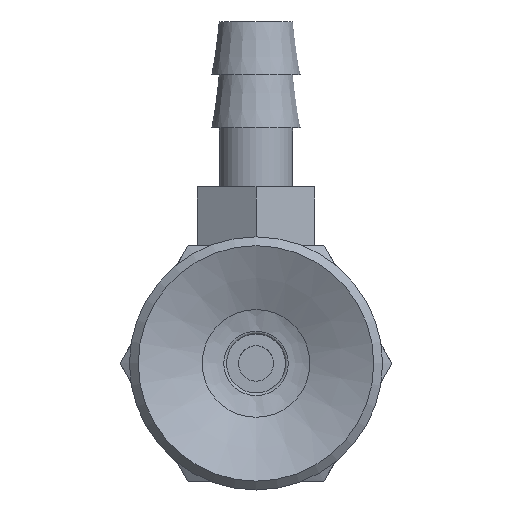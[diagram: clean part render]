
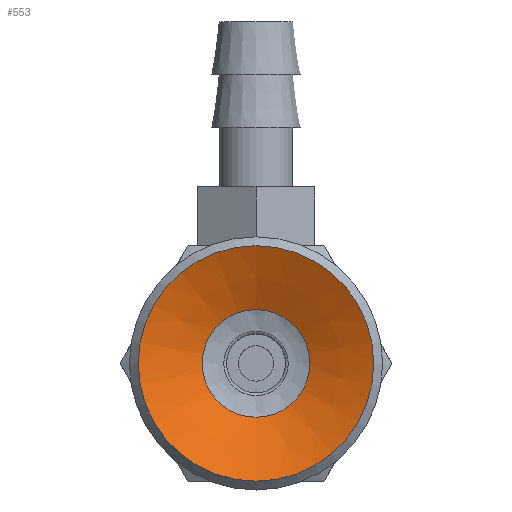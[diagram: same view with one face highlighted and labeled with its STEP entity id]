
A CAD part, front view. The second image highlights one B-rep face of the part: STEP entity #553.
In plain terms, the highlighted conical face has half-angle 65 degrees and reference radius 1.427 mm.
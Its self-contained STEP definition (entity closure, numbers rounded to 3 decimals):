
#553=ADVANCED_FACE('',(#820,#821),#822,.F.);
#820=FACE_BOUND('',#1138,.T.);
#821=FACE_OUTER_BOUND('',#1139,.T.);
#822=CONICAL_SURFACE('',#1140,1.427,1.134);
#1138=EDGE_LOOP('',(#1905));
#1139=EDGE_LOOP('',(#1906));
#1140=AXIS2_PLACEMENT_3D('',#1907,#1908,#1909);
#1905=ORIENTED_EDGE('',*,*,#2251,.T.);
#1906=ORIENTED_EDGE('',*,*,#2244,.T.);
#1907=CARTESIAN_POINT('',(0.0,7.096,0.));
#1908=DIRECTION('',(-0.0,-1.0,0.));
#1909=DIRECTION('',(0.0,0.,-1.0));
#2244=EDGE_CURVE('',#2580,#2580,#2581,.T.);
#2251=EDGE_CURVE('',#2594,#2594,#2595,.T.);
#2580=VERTEX_POINT('',#3328);
#2581=CIRCLE('',#3329,4.0);
#2594=VERTEX_POINT('',#3342);
#2595=CIRCLE('',#3343,1.828);
#3328=CARTESIAN_POINT('',(0.0,5.896,-4.0));
#3329=AXIS2_PLACEMENT_3D('',#3679,#3680,#3681);
#3342=CARTESIAN_POINT('',(0.0,6.909,-1.828));
#3343=AXIS2_PLACEMENT_3D('',#3700,#3701,#3702);
#3679=CARTESIAN_POINT('',(0.0,5.896,0.0));
#3680=DIRECTION('',(0.0,-1.0,0.));
#3681=DIRECTION('',(0.0,0.,-1.0));
#3700=CARTESIAN_POINT('',(0.0,6.909,0.0));
#3701=DIRECTION('',(0.0,1.0,0.));
#3702=DIRECTION('',(0.0,0.,-1.0));
